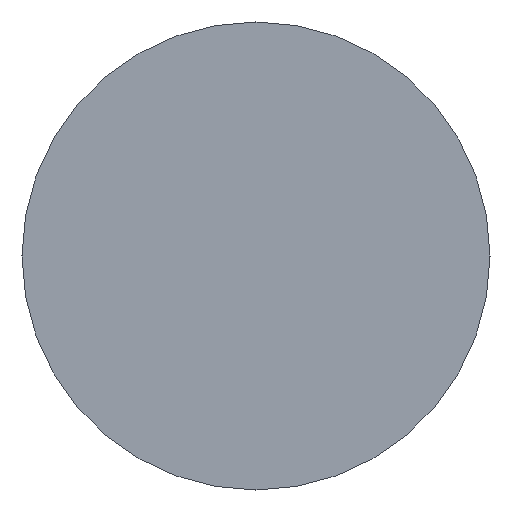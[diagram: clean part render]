
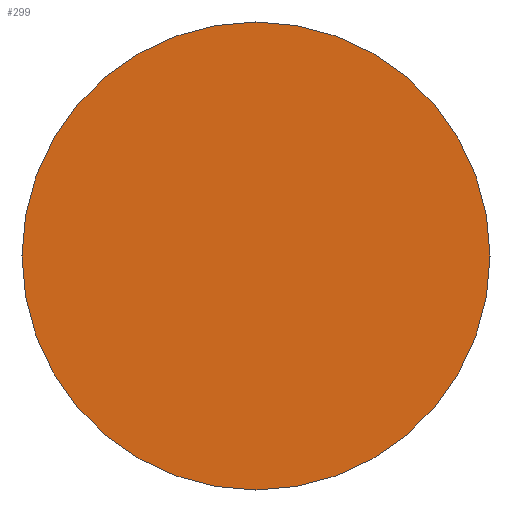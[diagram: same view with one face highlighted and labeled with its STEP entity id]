
A CAD part, left-side view. The second image highlights one B-rep face of the part: STEP entity #299.
In plain terms, the highlighted planar face has unit normal (-1, 0, 0).
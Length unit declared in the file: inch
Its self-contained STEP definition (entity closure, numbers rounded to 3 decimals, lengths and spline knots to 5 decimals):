
#4 = CARTESIAN_POINT ( 'NONE',  ( -2.75, 0.21875, 0. ) ) ;
#7 = FACE_OUTER_BOUND ( 'NONE', #319, .T. ) ;
#30 = VERTEX_POINT ( 'NONE', #83 ) ;
#65 = EDGE_CURVE ( 'NONE', #30, #475, #178, .T. ) ;
#83 = CARTESIAN_POINT ( 'NONE',  ( -2.75, 0., -0.21875 ) ) ;
#146 = DIRECTION ( 'NONE',  ( 0., 0., 1. ) ) ;
#167 = PLANE ( 'NONE',  #397 ) ;
#176 = ORIENTED_EDGE ( 'NONE', *, *, #511, .T. ) ;
#178 = CIRCLE ( 'NONE', #325, 0.21875 ) ;
#208 = CARTESIAN_POINT ( 'NONE',  ( -2.75, 0., 0.21875 ) ) ;
#212 = CARTESIAN_POINT ( 'NONE',  ( -2.75, 0., 0. ) ) ;
#270 = DIRECTION ( 'NONE',  ( 0., 0., 1. ) ) ;
#275 = DIRECTION ( 'NONE',  ( -1., 0., 0. ) ) ;
#279 = CARTESIAN_POINT ( 'NONE',  ( -2.75, 0., 0. ) ) ;
#295 = DIRECTION ( 'NONE',  ( 0., 0., -1. ) ) ;
#299 = ADVANCED_FACE ( 'NONE', ( #7 ), #167, .F. ) ;
#319 = EDGE_LOOP ( 'NONE', ( #176, #510 ) ) ;
#325 = AXIS2_PLACEMENT_3D ( 'NONE', #212, #499, #146 ) ;
#351 = DIRECTION ( 'NONE',  ( 1., 0., 0. ) ) ;
#397 = AXIS2_PLACEMENT_3D ( 'NONE', #4, #351, #295 ) ;
#407 = AXIS2_PLACEMENT_3D ( 'NONE', #279, #275, #270 ) ;
#434 = CIRCLE ( 'NONE', #407, 0.21875 ) ;
#475 = VERTEX_POINT ( 'NONE', #208 ) ;
#499 = DIRECTION ( 'NONE',  ( -1., 0., 0. ) ) ;
#510 = ORIENTED_EDGE ( 'NONE', *, *, #65, .T. ) ;
#511 = EDGE_CURVE ( 'NONE', #475, #30, #434, .T. ) ;
